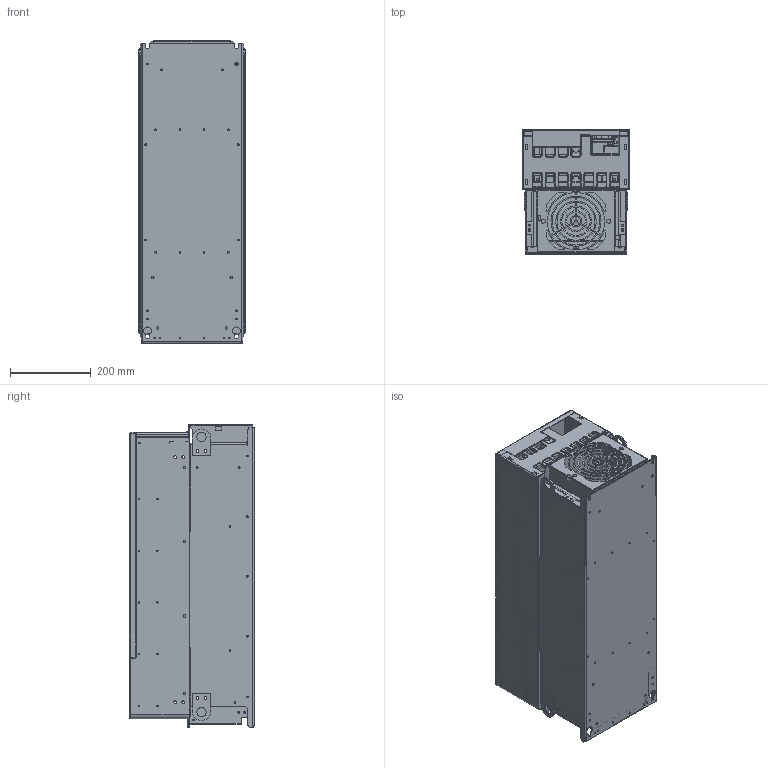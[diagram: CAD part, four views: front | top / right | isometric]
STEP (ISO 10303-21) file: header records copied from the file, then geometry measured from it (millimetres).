
FILE_DESCRIPTION(('STEP AP242'),'1');
FILE_NAME('atv610d55n4.stp','2019-09-19T03:30:44',('TraceParts'),('TraceParts S.A.'),'Spatial InterOp 3D',' ',' ');
FILE_SCHEMA(('AP242_MANAGED_MODEL_BASED_3D_ENGINEERING_MIM_LF {1 0 10303 442 1 1 4}'));
Length unit declared in the file: millimetre
Products named in the file (1): atv610d55n4_1
Bounding box: 265 x 306.85 x 748 mm (x, y, z)
Volume: 2543297.8 mm3; surface area: 2765268.9 mm2
Topology: 36 solids, 36 shells, 3514 faces, 9523 edges, 6051 vertices
Faces by surface type: plane 2278, cylinder 1021, cone 79, torus 64, bspline 44, sphere 20, extrusion 8
Entity records: 112585 total; most frequent: CARTESIAN_POINT 21529, ORIENTED_EDGE 19046, DIRECTION 18579, EDGE_CURVE 9523, VECTOR 7117, LINE 7109, VERTEX_POINT 6051, AXIS2_PLACEMENT_3D 5731
